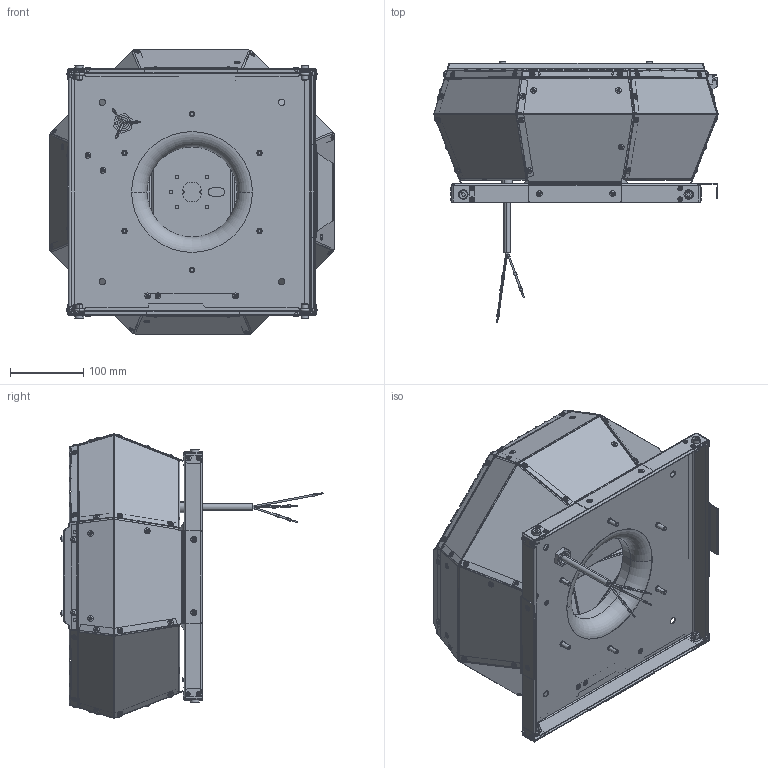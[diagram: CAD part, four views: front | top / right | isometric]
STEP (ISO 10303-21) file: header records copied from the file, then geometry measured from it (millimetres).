
FILE_DESCRIPTION (( 'STEP AP203' ), '1' );
FILE_NAME ('139342-00_DVA190E4P31.STEP', '2017-03-31T12:46:11', ( '' ), ( '' ), 'SwSTEP 2.0', 'SolidWorks 2012', '' );
FILE_SCHEMA (( 'CONFIG_CONTROL_DESIGN' ));
Products named in the file (1): 139342-00_DVA190E4P31
Bounding box: 388.45 x 357.99 x 388.42 mm (x, y, z)
Surface area: 1096201 mm2 (no closed solid volume)
Topology: 0 solids, 213 shells, 2685 faces, 8623 edges, 5820 vertices
Faces by surface type: plane 1508, cylinder 756, torus 307, bspline 88, cone 26
Entity records: 97821 total; most frequent: CARTESIAN_POINT 21575, DIRECTION 15924, ORIENTED_EDGE 14137, EDGE_CURVE 8623, VERTEX_POINT 5820, LINE 5312, VECTOR 5312, AXIS2_PLACEMENT_3D 5306
